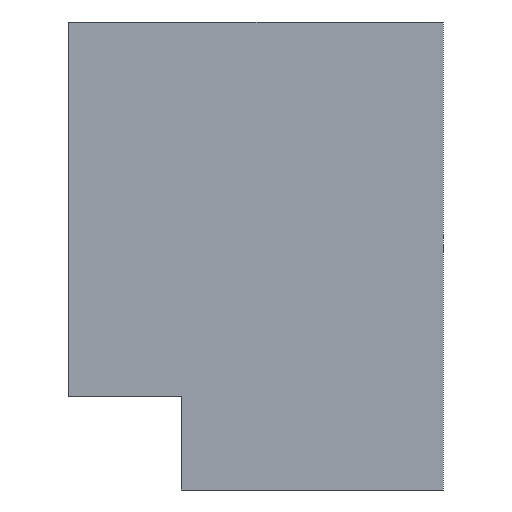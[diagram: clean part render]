
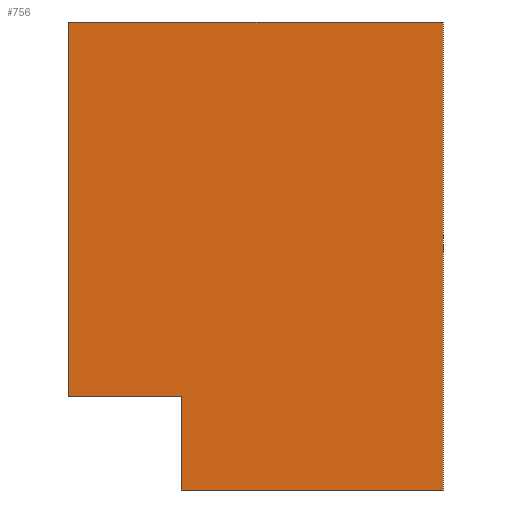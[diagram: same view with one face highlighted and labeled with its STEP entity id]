
A CAD part, left-side view. The second image highlights one B-rep face of the part: STEP entity #756.
In plain terms, the highlighted planar face has unit normal (1, 0, 0).
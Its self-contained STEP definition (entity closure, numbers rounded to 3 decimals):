
#701=CARTESIAN_POINT('Axis2P3D Location',(-50.,0.,0.)) ;
#706=CARTESIAN_POINT('Line Origine',(-50.,4.,-22.5)) ;
#710=CARTESIAN_POINT('Vertex',(-50.,4.,-25.)) ;
#712=CARTESIAN_POINT('Vertex',(-50.,4.,-20.)) ;
#715=CARTESIAN_POINT('Line Origine',(-50.,7.,-20.)) ;
#719=CARTESIAN_POINT('Vertex',(-50.,10.,-20.)) ;
#722=CARTESIAN_POINT('Line Origine',(-50.,10.,-10.)) ;
#726=CARTESIAN_POINT('Vertex',(-50.,10.,0.)) ;
#729=CARTESIAN_POINT('Line Origine',(-50.,0.,0.)) ;
#733=CARTESIAN_POINT('Vertex',(-50.,-10.,0.)) ;
#736=CARTESIAN_POINT('Line Origine',(-50.,-10.,-12.5)) ;
#740=CARTESIAN_POINT('Vertex',(-50.,-10.,-25.)) ;
#743=CARTESIAN_POINT('Line Origine',(-50.,-3.,-25.)) ;
#702=DIRECTION('Axis2P3D Direction',(1.,0.,0.)) ;
#703=DIRECTION('Axis2P3D XDirection',(0.,1.,0.)) ;
#707=DIRECTION('Vector Direction',(0.,0.,1.)) ;
#716=DIRECTION('Vector Direction',(0.,1.,0.)) ;
#723=DIRECTION('Vector Direction',(0.,0.,1.)) ;
#730=DIRECTION('Vector Direction',(0.,-1.,0.)) ;
#737=DIRECTION('Vector Direction',(0.,0.,-1.)) ;
#744=DIRECTION('Vector Direction',(0.,1.,0.)) ;
#704=AXIS2_PLACEMENT_3D('Plane Axis2P3D',#701,#702,#703) ;
#749=ORIENTED_EDGE('',*,*,#714,.T.) ;
#750=ORIENTED_EDGE('',*,*,#721,.T.) ;
#751=ORIENTED_EDGE('',*,*,#728,.T.) ;
#752=ORIENTED_EDGE('',*,*,#735,.T.) ;
#753=ORIENTED_EDGE('',*,*,#742,.T.) ;
#754=ORIENTED_EDGE('',*,*,#747,.T.) ;
#708=VECTOR('Line Direction',#707,1.) ;
#717=VECTOR('Line Direction',#716,1.) ;
#724=VECTOR('Line Direction',#723,1.) ;
#731=VECTOR('Line Direction',#730,1.) ;
#738=VECTOR('Line Direction',#737,1.) ;
#745=VECTOR('Line Direction',#744,1.) ;
#756=ADVANCED_FACE('MANIFOLD_SOLID_BREP #3688',(#755),#705,.T.) ;
#714=EDGE_CURVE('',#711,#713,#709,.T.) ;
#721=EDGE_CURVE('',#713,#720,#718,.T.) ;
#728=EDGE_CURVE('',#720,#727,#725,.T.) ;
#735=EDGE_CURVE('',#727,#734,#732,.T.) ;
#742=EDGE_CURVE('',#734,#741,#739,.T.) ;
#747=EDGE_CURVE('',#741,#711,#746,.T.) ;
#748=EDGE_LOOP('',(#749,#750,#751,#752,#753,#754)) ;
#755=FACE_OUTER_BOUND('',#748,.T.) ;
#709=LINE('Line',#706,#708) ;
#718=LINE('Line',#715,#717) ;
#725=LINE('Line',#722,#724) ;
#732=LINE('Line',#729,#731) ;
#739=LINE('Line',#736,#738) ;
#746=LINE('Line',#743,#745) ;
#705=PLANE('Plane',#704) ;
#711=VERTEX_POINT('',#710) ;
#713=VERTEX_POINT('',#712) ;
#720=VERTEX_POINT('',#719) ;
#727=VERTEX_POINT('',#726) ;
#734=VERTEX_POINT('',#733) ;
#741=VERTEX_POINT('',#740) ;
